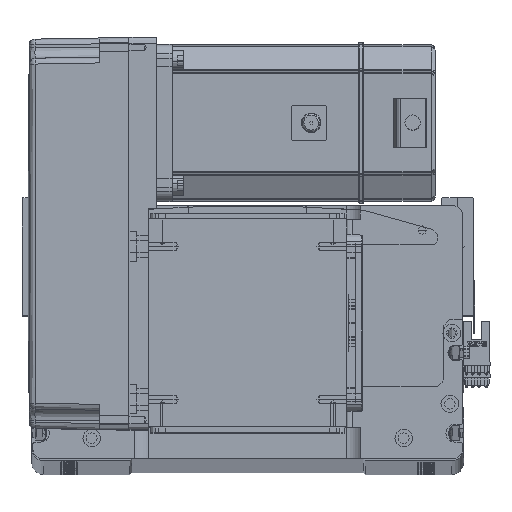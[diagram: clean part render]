
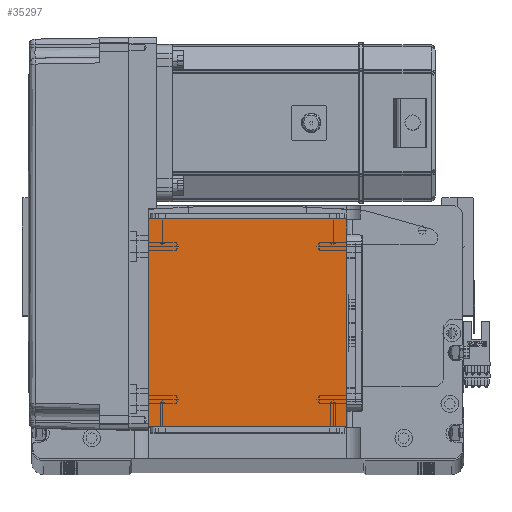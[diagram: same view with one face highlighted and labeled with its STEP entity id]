
A CAD part, top view. The second image highlights one B-rep face of the part: STEP entity #35297.
In plain terms, the highlighted planar face has unit normal (0, 0, 1).
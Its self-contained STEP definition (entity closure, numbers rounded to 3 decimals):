
#177 = DIRECTION ( 'NONE',  ( 0., 1., 0. ) ) ;
#514 = LINE ( 'NONE', #6135, #14693 ) ;
#2556 = ORIENTED_EDGE ( 'NONE', *, *, #50696, .T. ) ;
#4322 = VERTEX_POINT ( 'NONE', #19230 ) ;
#6135 = CARTESIAN_POINT ( 'NONE',  ( -50.5, 16., 115. ) ) ;
#6943 = CARTESIAN_POINT ( 'NONE',  ( -50.5, 16., 115. ) ) ;
#10403 = LINE ( 'NONE', #50471, #14846 ) ;
#13640 = CARTESIAN_POINT ( 'NONE',  ( 50.5, 16., 115. ) ) ;
#14214 = AXIS2_PLACEMENT_3D ( 'NONE', #20740, #49519, #44501 ) ;
#14693 = VECTOR ( 'NONE', #54708, 1000. ) ;
#14846 = VECTOR ( 'NONE', #26691, 1000. ) ;
#17947 = VERTEX_POINT ( 'NONE', #27063 ) ;
#19230 = CARTESIAN_POINT ( 'NONE',  ( 50.5, 122., 115. ) ) ;
#19620 = ORIENTED_EDGE ( 'NONE', *, *, #44476, .T. ) ;
#20740 = CARTESIAN_POINT ( 'NONE',  ( 0., 0., 115. ) ) ;
#22053 = DIRECTION ( 'NONE',  ( -1., 0., 0. ) ) ;
#23385 = ORIENTED_EDGE ( 'NONE', *, *, #40123, .T. ) ;
#23451 = CARTESIAN_POINT ( 'NONE',  ( 50.5, 122., 115. ) ) ;
#24394 = VERTEX_POINT ( 'NONE', #13640 ) ;
#26691 = DIRECTION ( 'NONE',  ( 0., -1., 0. ) ) ;
#27063 = CARTESIAN_POINT ( 'NONE',  ( -50.5, 122., 115. ) ) ;
#28742 = VECTOR ( 'NONE', #22053, 1000. ) ;
#30010 = CARTESIAN_POINT ( 'NONE',  ( -50.5, 122., 115. ) ) ;
#34779 = PLANE ( 'NONE',  #14214 ) ;
#35297 = ADVANCED_FACE ( 'NONE', ( #48008 ), #34779, .T. ) ;
#36028 = EDGE_CURVE ( 'NONE', #46628, #24394, #514, .T. ) ;
#37142 = ORIENTED_EDGE ( 'NONE', *, *, #36028, .T. ) ;
#40123 = EDGE_CURVE ( 'NONE', #4322, #17947, #58860, .T. ) ;
#40345 = EDGE_LOOP ( 'NONE', ( #2556, #37142, #19620, #23385 ) ) ;
#44476 = EDGE_CURVE ( 'NONE', #24394, #4322, #48487, .T. ) ;
#44501 = DIRECTION ( 'NONE',  ( 1., 0., 0. ) ) ;
#46628 = VERTEX_POINT ( 'NONE', #6943 ) ;
#48008 = FACE_OUTER_BOUND ( 'NONE', #40345, .T. ) ;
#48487 = LINE ( 'NONE', #23451, #55202 ) ;
#49519 = DIRECTION ( 'NONE',  ( 0., 0., 1. ) ) ;
#50471 = CARTESIAN_POINT ( 'NONE',  ( -50.5, 122., 115. ) ) ;
#50696 = EDGE_CURVE ( 'NONE', #17947, #46628, #10403, .T. ) ;
#54708 = DIRECTION ( 'NONE',  ( 1., 0., 0. ) ) ;
#55202 = VECTOR ( 'NONE', #177, 1000. ) ;
#58860 = LINE ( 'NONE', #30010, #28742 ) ;
